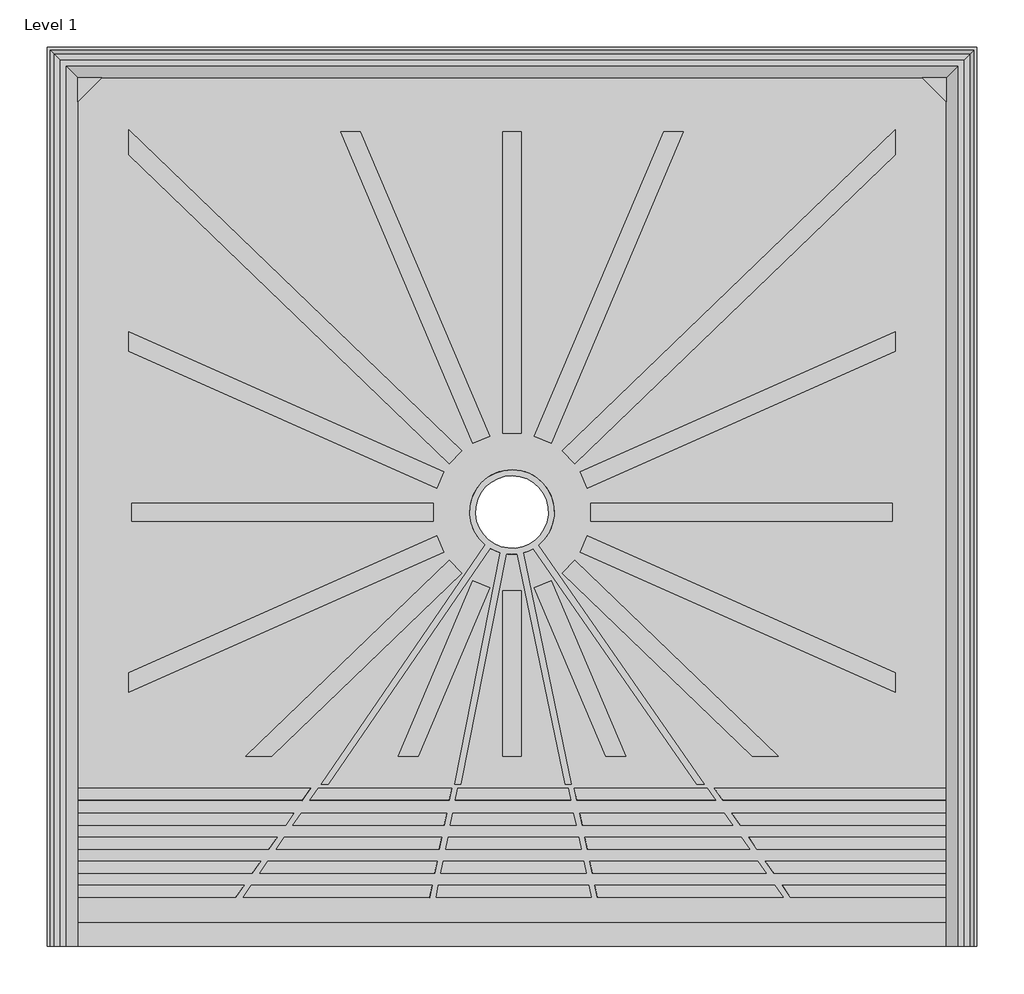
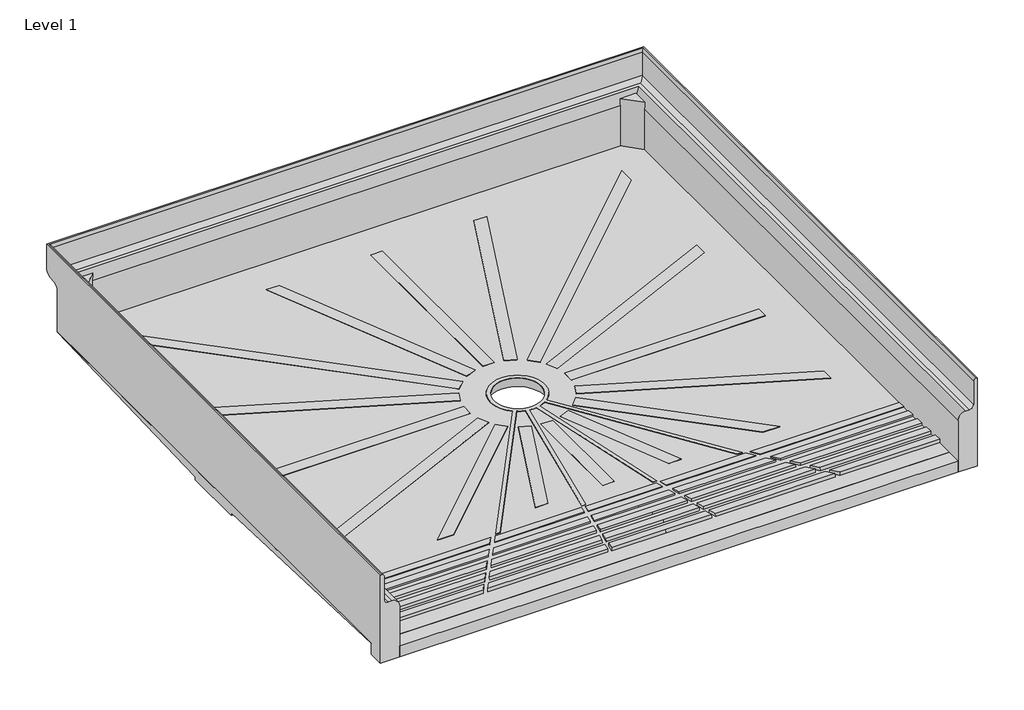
# One storey: 1 flow terminal.
"""IFC4 building model written with IfcOpenShell, lengths in millimetres."""

from ifc_helpers import new_model, si_unit, origin, place, context, project, spatial, transform, mapped, element, save
from components import cp3636bf_cp3636bf_12177f3f

model = new_model("IFC4")

# Units and contexts
model_context = context("Model", 3, world=origin())
ifc_project = project(units=[si_unit("LENGTHUNIT", "METRE", prefix="MILLI")], contexts=[model_context])

# Site, building, storey
site = spatial("IfcSite", under=ifc_project)
building = spatial("IfcBuilding", under=site)
storey = spatial("IfcBuildingStorey", under=building, Name="Level 1", Elevation=0.0)

# Flow terminal
placement = place(None, origin())
cp3636bf_cp3636bf_shape = cp3636bf_cp3636bf_12177f3f(model_context)
element("IfcFlowTerminal", 1, ObjectType="CP3636BF : CP3636BF", at=placement, inside=storey, context=model_context, shape_type="MappedRepresentation", body=[
    mapped(cp3636bf_cp3636bf_shape, transform((-4014.3799872, 2845.8366899, 0.0), x_axis=(1.0, 0.0, 0.0), y_axis=(0.0, 1.0, 0.0), z_axis=(0.0, 0.0, 1.0))),
])

save(model, "model.ifc")
